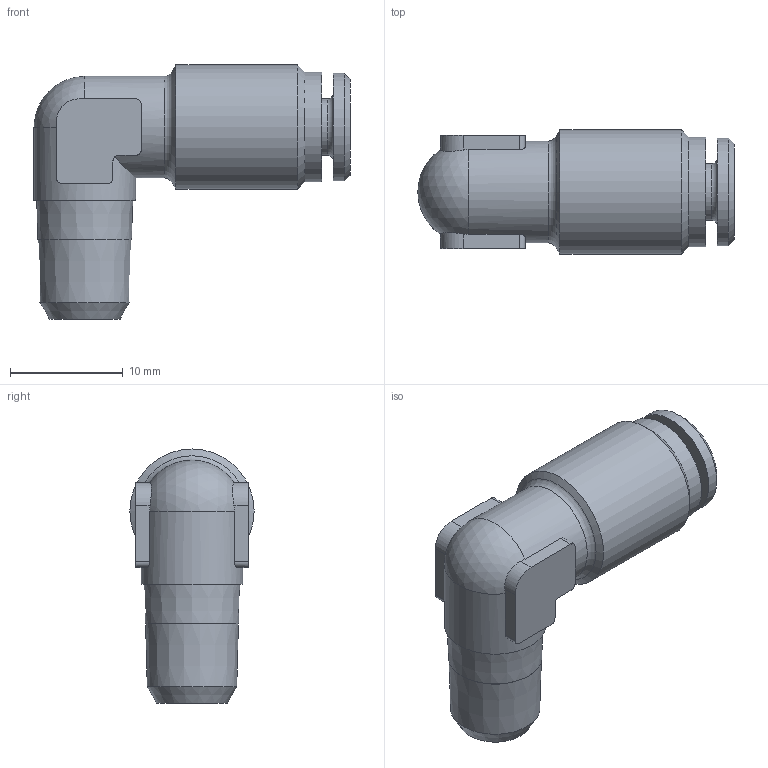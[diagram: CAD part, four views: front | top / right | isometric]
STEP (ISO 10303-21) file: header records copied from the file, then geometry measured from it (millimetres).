
FILE_DESCRIPTION(/* description */ (''),/* implementation_level */ '2;1');
FILE_NAME(/* name */ 'H190408_HDS19_4_M8X1K_04.05.17',/* time_stamp */ '2017-05-04T11:40:34+02:00',/* author */ (''),/* organization */ (''),/* preprocessor_version */ 'ST-DEVELOPER v16.5',/* originating_system */ 'HiCAD 2016 2102.1 Build 498',/* authorisation */ '');
FILE_SCHEMA (('AUTOMOTIVE_DESIGN { 1 0 10303 214 1 1 1 1 }'));
Length unit declared in the file: millimetre
Products named in the file (3): Root; ONLINE_DR4_HDS_26.11.15; RH140408
Assembly tree (2 placements, depth 2):
  Root
    ONLINE_DR4_HDS_26.11.15
    RH140408
Bounding box: 28 x 11 x 22.5 mm (x, y, z)
Volume: 2119 mm3; surface area: 2445.9 mm2
Topology: 2 solids, 2 shells, 69 faces, 166 edges, 106 vertices
Faces by surface type: cylinder 25, plane 24, cone 15, torus 4, sphere 1
Full cylindrical faces by diameter (mm): 3 x1, 4 x1, 4.2 x2, 5 x1, 7.3 x1, 8 x1, 8.3 x1, 9 x2, 9.5 x1, 9.7 x1, 11 x1
Entity records: 3515 total; most frequent: CARTESIAN_POINT 755, DIRECTION 318, PRESENTATION_STYLE_ASSIGNMENT 254, COLOUR_RGB 254, DRAUGHTING_PRE_DEFINED_CURVE_FONT 252, CURVE_STYLE 252, OVER_RIDING_STYLED_ITEM 252, ORIENTED_EDGE 252
